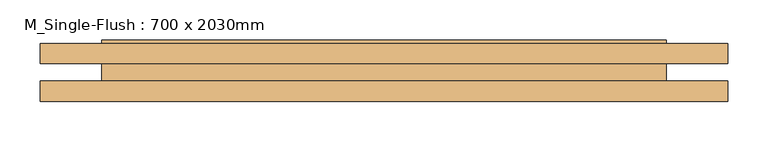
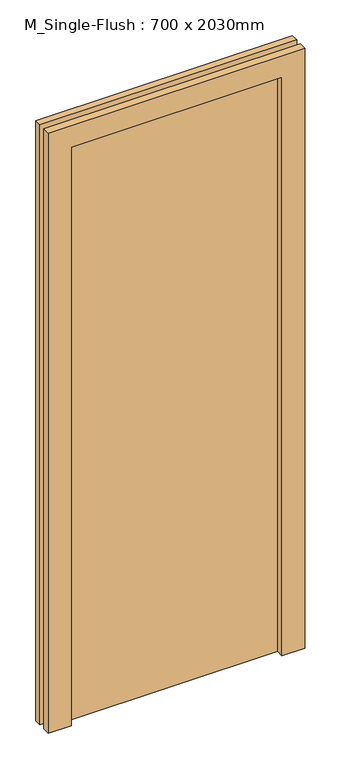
"""IFC4 building model written with IfcOpenShell, lengths in millimetres: door geometry, M_Single-Flush : 700 x 2030mm."""

from ifc_helpers import new_model, si_unit, frame, origin, origin_with_axes, place, context, project, spatial, polyline, outline, extrude, source, transform, mapped, element, save


def m_single_flush_700_x_2030mm_a4fa4ead(model_context):
    return source(origin(), model_context, "Body", "SweptSolid", [
        extrude(outline(polyline([(2106.0, -426.0), (0.0, -426.0), (0.0, -350.0), (2030.0, -350.0), (2030.0, 350.0), (0.0, 350.0), (0.0, 426.0), (2106.0, 426.0), (2106.0, -426.0)])), frame((0.0, -36.0, 0.0), z_axis=(0.0, 1.0, 0.0), x_axis=(0.0, 0.0, 1.0)), (0.0, 0.0, 1.0), 25.0),
        extrude(outline(polyline([(2106.0, 426.0), (2106.0, -426.0), (0.0, -426.0), (0.0, -350.0), (2030.0, -350.0), (2030.0, 350.0), (0.0, 350.0), (0.0, 426.0), (2106.0, 426.0)])), frame((0.0, 11.0, 0.0), z_axis=(0.0, 1.0, 0.0), x_axis=(0.0, 0.0, 1.0)), (0.0, 0.0, 1.0), 25.0),
        extrude(outline(polyline([(350.0, 40.0), (350.0, -11.0), (-350.0, -11.0), (-350.0, 40.0), (350.0, 40.0)])), origin_with_axes(), (0.0, 0.0, 1.0), 2030.0),
    ])


if __name__ == "__main__":
    model = new_model("IFC4")
    model_context = context("Model", 3, world=origin())
    ifc_project = project(units=[si_unit("LENGTHUNIT", "METRE", prefix="MILLI")], contexts=[model_context])
    site = spatial("IfcSite", under=ifc_project)
    building = spatial("IfcBuilding", under=site)
    placement = place(None, origin())
    m_single_flush_700_x_2030mm_shape = m_single_flush_700_x_2030mm_a4fa4ead(model_context)
    element("IfcDoor", 1, ObjectType="M_Single-Flush : 700 x 2030mm", at=placement, inside=building, context=model_context, shape_type="MappedRepresentation", body=[
        mapped(m_single_flush_700_x_2030mm_shape, transform((0.0, 0.0, 0.0), x_axis=(1.0, 0.0, 0.0), y_axis=(0.0, 1.0, 0.0), z_axis=(0.0, 0.0, 1.0))),
    ])
    save(model, "model.ifc")
